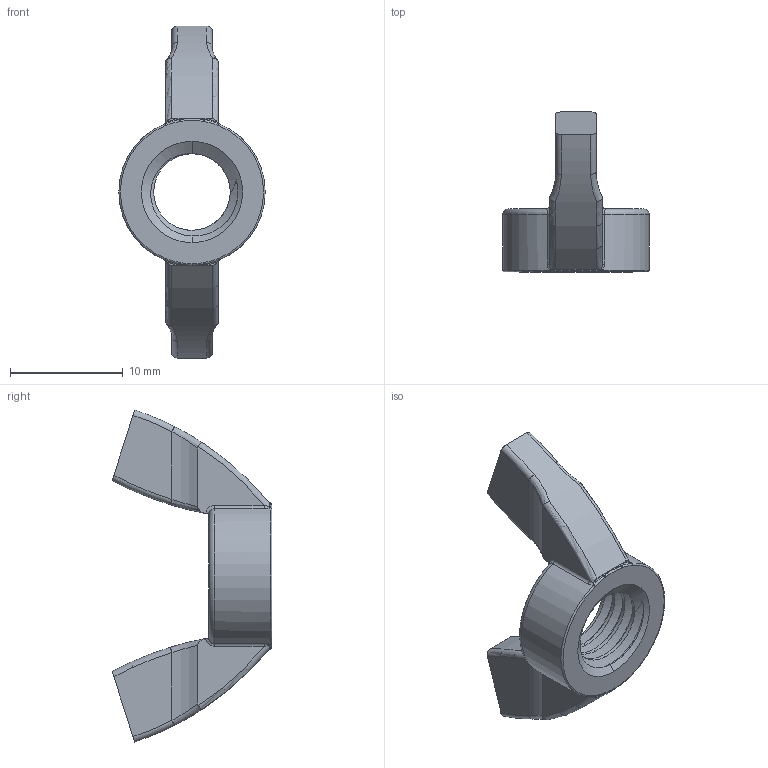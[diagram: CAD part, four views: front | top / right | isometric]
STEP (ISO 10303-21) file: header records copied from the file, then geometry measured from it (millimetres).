
FILE_DESCRIPTION (( 'STEP AP203' ), '1' );
FILE_NAME ('TANC-304-M8.STEP', '2026-08-24T08:09:42', ( '' ), ( '' ), 'SwSTEP 2.0', 'SolidWorks 2020', '' );
FILE_SCHEMA (( 'CONFIG_CONTROL_DESIGN' ));
Length unit declared in the file: millimetre
Products named in the file (1): TANC-304-M8
Bounding box: 13 x 14.2 x 29.5 mm (x, y, z)
Volume: 1034 mm3; surface area: 1025.7 mm2
Topology: 1 solids, 1 shells, 103 faces, 270 edges, 165 vertices
Faces by surface type: bspline 31, torus 27, cylinder 25, plane 16, cone 4
Entity records: 4833 total; most frequent: CARTESIAN_POINT 2574, ORIENTED_EDGE 532, DIRECTION 372, EDGE_CURVE 266, VERTEX_POINT 165, AXIS2_PLACEMENT_3D 163, B_SPLINE_CURVE_WITH_KNOTS 113, EDGE_LOOP 105
